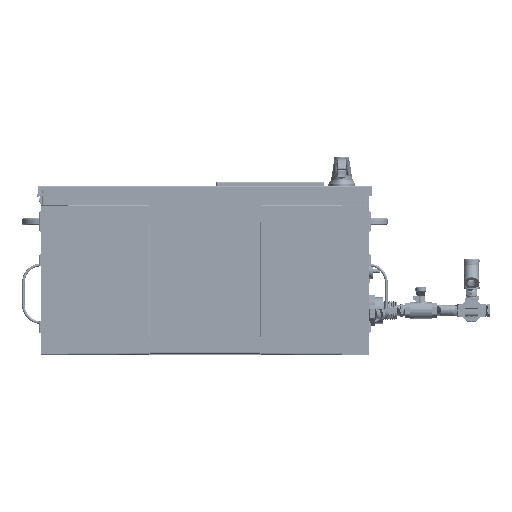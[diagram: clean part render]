
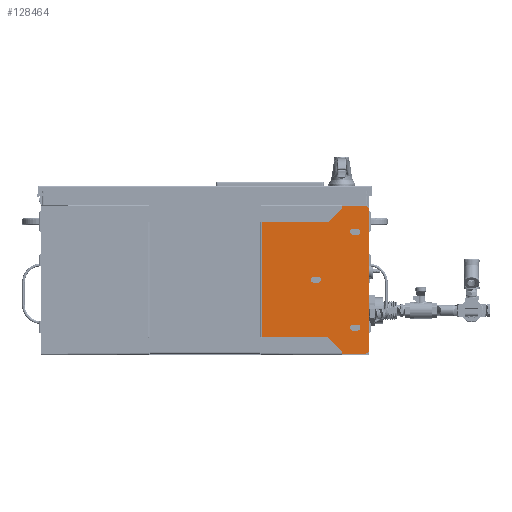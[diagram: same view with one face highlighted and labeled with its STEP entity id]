
A CAD part, front view. The second image highlights one B-rep face of the part: STEP entity #128464.
In plain terms, the highlighted planar face has unit normal (0, -1, 0).
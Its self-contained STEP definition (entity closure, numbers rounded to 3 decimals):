
#3738=PLANE('',#137239);
#6542=FACE_BOUND('',#20737,.T.);
#6543=FACE_BOUND('',#20738,.T.);
#6544=FACE_BOUND('',#20739,.T.);
#14204=FACE_OUTER_BOUND('',#20736,.T.);
#20736=EDGE_LOOP('',(#100302,#100303,#100304,#100305,#100306,#100307,#100308,
#100309,#100310,#100311,#100312,#100313));
#20737=EDGE_LOOP('',(#100314,#100315,#100316,#100317));
#20738=EDGE_LOOP('',(#100318,#100319,#100320,#100321));
#20739=EDGE_LOOP('',(#100322,#100323,#100324,#100325));
#28430=LINE('',#369833,#38084);
#28434=LINE('',#369842,#38088);
#28451=LINE('',#369903,#38105);
#28456=LINE('',#369917,#38110);
#28459=LINE('',#369927,#38113);
#28464=LINE('',#369941,#38118);
#28467=LINE('',#369951,#38121);
#28472=LINE('',#369965,#38126);
#28481=LINE('',#370025,#38135);
#28483=LINE('',#370030,#38137);
#28485=LINE('',#370033,#38139);
#28487=LINE('',#370036,#38141);
#28490=LINE('',#370042,#38144);
#28492=LINE('',#370045,#38146);
#28496=LINE('',#370051,#38150);
#28497=LINE('',#370052,#38151);
#38084=VECTOR('',#158141,39.37);
#38088=VECTOR('',#158147,39.37);
#38105=VECTOR('',#158202,39.37);
#38110=VECTOR('',#158215,39.37);
#38113=VECTOR('',#158226,39.37);
#38118=VECTOR('',#158239,39.37);
#38121=VECTOR('',#158250,39.37);
#38126=VECTOR('',#158263,39.37);
#38135=VECTOR('',#158328,39.37);
#38137=VECTOR('',#158332,39.37);
#38139=VECTOR('',#158336,39.37);
#38141=VECTOR('',#158340,39.37);
#38144=VECTOR('',#158345,39.37);
#38146=VECTOR('',#158349,39.37);
#38150=VECTOR('',#158357,39.37);
#38151=VECTOR('',#158358,39.37);
#45967=CIRCLE('',#137167,0.25);
#45969=CIRCLE('',#137170,0.25);
#45979=CIRCLE('',#137186,0.219);
#45981=CIRCLE('',#137190,0.219);
#45983=CIRCLE('',#137194,0.219);
#45985=CIRCLE('',#137198,0.219);
#45987=CIRCLE('',#137202,0.219);
#45989=CIRCLE('',#137206,0.219);
#54559=VERTEX_POINT('',#369831);
#54560=VERTEX_POINT('',#369832);
#54563=VERTEX_POINT('',#369840);
#54564=VERTEX_POINT('',#369841);
#54567=VERTEX_POINT('',#369849);
#54568=VERTEX_POINT('',#369850);
#54571=VERTEX_POINT('',#369858);
#54572=VERTEX_POINT('',#369859);
#54588=VERTEX_POINT('',#369900);
#54589=VERTEX_POINT('',#369902);
#54592=VERTEX_POINT('',#369909);
#54594=VERTEX_POINT('',#369915);
#54596=VERTEX_POINT('',#369924);
#54597=VERTEX_POINT('',#369926);
#54600=VERTEX_POINT('',#369933);
#54602=VERTEX_POINT('',#369939);
#54604=VERTEX_POINT('',#369948);
#54605=VERTEX_POINT('',#369950);
#54608=VERTEX_POINT('',#369957);
#54610=VERTEX_POINT('',#369963);
#54631=VERTEX_POINT('',#370019);
#54633=VERTEX_POINT('',#370023);
#54635=VERTEX_POINT('',#370029);
#54637=VERTEX_POINT('',#370041);
#71375=EDGE_CURVE('',#54559,#54560,#28430,.F.);
#71379=EDGE_CURVE('',#54563,#54564,#28434,.F.);
#71383=EDGE_CURVE('',#54567,#54568,#45967,.T.);
#71387=EDGE_CURVE('',#54571,#54572,#45969,.T.);
#71408=EDGE_CURVE('',#54588,#54589,#28451,.T.);
#71412=EDGE_CURVE('',#54592,#54588,#45979,.T.);
#71415=EDGE_CURVE('',#54594,#54592,#28456,.T.);
#71417=EDGE_CURVE('',#54589,#54594,#45981,.T.);
#71420=EDGE_CURVE('',#54596,#54597,#28459,.T.);
#71424=EDGE_CURVE('',#54600,#54596,#45983,.T.);
#71427=EDGE_CURVE('',#54602,#54600,#28464,.T.);
#71429=EDGE_CURVE('',#54597,#54602,#45985,.T.);
#71432=EDGE_CURVE('',#54604,#54605,#28467,.T.);
#71436=EDGE_CURVE('',#54608,#54604,#45987,.T.);
#71439=EDGE_CURVE('',#54610,#54608,#28472,.T.);
#71441=EDGE_CURVE('',#54605,#54610,#45989,.T.);
#71469=EDGE_CURVE('',#54631,#54633,#28481,.T.);
#71471=EDGE_CURVE('',#54635,#54559,#28483,.T.);
#71473=EDGE_CURVE('',#54568,#54635,#28485,.T.);
#71475=EDGE_CURVE('',#54572,#54567,#28487,.T.);
#71478=EDGE_CURVE('',#54637,#54571,#28490,.T.);
#71480=EDGE_CURVE('',#54564,#54637,#28492,.T.);
#71484=EDGE_CURVE('',#54560,#54631,#28496,.T.);
#71485=EDGE_CURVE('',#54633,#54563,#28497,.T.);
#100302=ORIENTED_EDGE('',*,*,#71478,.T.);
#100303=ORIENTED_EDGE('',*,*,#71387,.T.);
#100304=ORIENTED_EDGE('',*,*,#71475,.T.);
#100305=ORIENTED_EDGE('',*,*,#71383,.T.);
#100306=ORIENTED_EDGE('',*,*,#71473,.T.);
#100307=ORIENTED_EDGE('',*,*,#71471,.T.);
#100308=ORIENTED_EDGE('',*,*,#71375,.T.);
#100309=ORIENTED_EDGE('',*,*,#71484,.T.);
#100310=ORIENTED_EDGE('',*,*,#71469,.T.);
#100311=ORIENTED_EDGE('',*,*,#71485,.T.);
#100312=ORIENTED_EDGE('',*,*,#71379,.T.);
#100313=ORIENTED_EDGE('',*,*,#71480,.T.);
#100314=ORIENTED_EDGE('',*,*,#71417,.F.);
#100315=ORIENTED_EDGE('',*,*,#71408,.F.);
#100316=ORIENTED_EDGE('',*,*,#71412,.F.);
#100317=ORIENTED_EDGE('',*,*,#71415,.F.);
#100318=ORIENTED_EDGE('',*,*,#71429,.F.);
#100319=ORIENTED_EDGE('',*,*,#71420,.F.);
#100320=ORIENTED_EDGE('',*,*,#71424,.F.);
#100321=ORIENTED_EDGE('',*,*,#71427,.F.);
#100322=ORIENTED_EDGE('',*,*,#71441,.F.);
#100323=ORIENTED_EDGE('',*,*,#71432,.F.);
#100324=ORIENTED_EDGE('',*,*,#71436,.F.);
#100325=ORIENTED_EDGE('',*,*,#71439,.F.);
#128464=ADVANCED_FACE('',(#14204,#6542,#6543,#6544),#3738,.T.);
#137167=AXIS2_PLACEMENT_3D('',#369851,#158153,#158154);
#137170=AXIS2_PLACEMENT_3D('',#369860,#158161,#158162);
#137186=AXIS2_PLACEMENT_3D('',#369911,#158208,#158209);
#137190=AXIS2_PLACEMENT_3D('',#369920,#158219,#158220);
#137194=AXIS2_PLACEMENT_3D('',#369935,#158232,#158233);
#137198=AXIS2_PLACEMENT_3D('',#369944,#158243,#158244);
#137202=AXIS2_PLACEMENT_3D('',#369959,#158256,#158257);
#137206=AXIS2_PLACEMENT_3D('',#369968,#158267,#158268);
#137239=AXIS2_PLACEMENT_3D('',#370050,#158355,#158356);
#158141=DIRECTION('',(0.707,0.,0.707));
#158147=DIRECTION('',(-0.707,0.,0.707));
#158153=DIRECTION('center_axis',(0.,-1.,0.));
#158154=DIRECTION('ref_axis',(1.,0.,0.));
#158161=DIRECTION('center_axis',(0.,-1.,0.));
#158162=DIRECTION('ref_axis',(1.,0.,0.));
#158202=DIRECTION('',(-1.,0.,0.));
#158208=DIRECTION('center_axis',(0.,-1.,0.));
#158209=DIRECTION('ref_axis',(0.,0.,
-1.));
#158215=DIRECTION('',(1.,0.,0.));
#158219=DIRECTION('center_axis',(0.,-1.,0.));
#158220=DIRECTION('ref_axis',(0.,0.,
1.));
#158226=DIRECTION('',(-1.,0.,0.));
#158232=DIRECTION('center_axis',(0.,-1.,0.));
#158233=DIRECTION('ref_axis',(-1.,0.,0.));
#158239=DIRECTION('',(1.,0.,0.));
#158243=DIRECTION('center_axis',(0.,-1.,0.));
#158244=DIRECTION('ref_axis',(1.,0.,0.));
#158250=DIRECTION('',(-1.,0.,0.));
#158256=DIRECTION('center_axis',(0.,-1.,0.));
#158257=DIRECTION('ref_axis',(0.,0.,
-1.));
#158263=DIRECTION('',(1.,0.,0.));
#158267=DIRECTION('center_axis',(0.,-1.,0.));
#158268=DIRECTION('ref_axis',(1.,0.,0.));
#158328=DIRECTION('',(0.,0.,-1.));
#158332=DIRECTION('',(0.,0.,-1.));
#158336=DIRECTION('',(-1.,0.,0.));
#158340=DIRECTION('',(0.,0.,1.));
#158345=DIRECTION('',(1.,0.,0.));
#158349=DIRECTION('',(0.,0.,-1.));
#158355=DIRECTION('center_axis',(0.,-1.,0.));
#158356=DIRECTION('ref_axis',(1.,0.,0.));
#158357=DIRECTION('',(-1.,0.,0.));
#158358=DIRECTION('',(1.,0.,0.));
#369831=CARTESIAN_POINT('',(22.063,0.,10.751));
#369832=CARTESIAN_POINT('',(21.,0.,9.688));
#369833=CARTESIAN_POINT('',(21.,0.,9.688));
#369840=CARTESIAN_POINT('',(21.,0.,1.312));
#369841=CARTESIAN_POINT('',(22.063,0.,0.25));
#369842=CARTESIAN_POINT('',(22.063,0.,0.25));
#369849=CARTESIAN_POINT('',(24.,0.,10.646));
#369850=CARTESIAN_POINT('',(23.75,0.,10.896));
#369851=CARTESIAN_POINT('Origin',(23.75,0.,10.646));
#369858=CARTESIAN_POINT('',(23.75,0.,0.104));
#369859=CARTESIAN_POINT('',(24.,0.,0.354));
#369860=CARTESIAN_POINT('Origin',(23.75,0.,0.354));
#369900=CARTESIAN_POINT('',(23.156,0.,9.219));
#369902=CARTESIAN_POINT('',(22.844,0.,9.219));
#369903=CARTESIAN_POINT('',(23.156,0.,9.219));
#369909=CARTESIAN_POINT('',(23.156,0.,8.781));
#369911=CARTESIAN_POINT('Origin',(23.156,0.,9.));
#369915=CARTESIAN_POINT('',(22.844,0.,8.781));
#369917=CARTESIAN_POINT('',(23.156,0.,8.781));
#369920=CARTESIAN_POINT('Origin',(22.844,0.,9.));
#369924=CARTESIAN_POINT('',(23.156,0.,2.219));
#369926=CARTESIAN_POINT('',(22.844,0.,2.219));
#369927=CARTESIAN_POINT('',(23.156,0.,2.219));
#369933=CARTESIAN_POINT('',(23.156,0.,1.781));
#369935=CARTESIAN_POINT('Origin',(23.156,0.,2.));
#369939=CARTESIAN_POINT('',(22.844,0.,1.781));
#369941=CARTESIAN_POINT('',(23.156,0.,1.781));
#369944=CARTESIAN_POINT('Origin',(22.844,0.,2.));
#369948=CARTESIAN_POINT('',(20.281,0.,5.719));
#369950=CARTESIAN_POINT('',(19.969,0.,5.719));
#369951=CARTESIAN_POINT('',(20.281,0.,5.719));
#369957=CARTESIAN_POINT('',(20.281,0.,5.281));
#369959=CARTESIAN_POINT('Origin',(20.281,0.,5.5));
#369963=CARTESIAN_POINT('',(19.969,0.,5.281));
#369965=CARTESIAN_POINT('',(20.281,0.,5.281));
#369968=CARTESIAN_POINT('Origin',(19.969,0.,5.5));
#370019=CARTESIAN_POINT('',(16.143,0.,9.688));
#370023=CARTESIAN_POINT('',(16.143,0.,1.312));
#370025=CARTESIAN_POINT('',(16.143,0.,9.688));
#370029=CARTESIAN_POINT('',(22.063,0.,10.896));
#370030=CARTESIAN_POINT('',(22.063,0.,9.688));
#370033=CARTESIAN_POINT('',(22.063,0.,10.896));
#370036=CARTESIAN_POINT('',(24.,0.,0.104));
#370041=CARTESIAN_POINT('',(22.063,0.,0.104));
#370042=CARTESIAN_POINT('',(22.063,0.,0.104));
#370045=CARTESIAN_POINT('',(22.063,0.,1.312));
#370050=CARTESIAN_POINT('Origin',(16.094,0.,
10.896));
#370051=CARTESIAN_POINT('',(16.094,0.,9.688));
#370052=CARTESIAN_POINT('',(16.094,0.,1.312));
